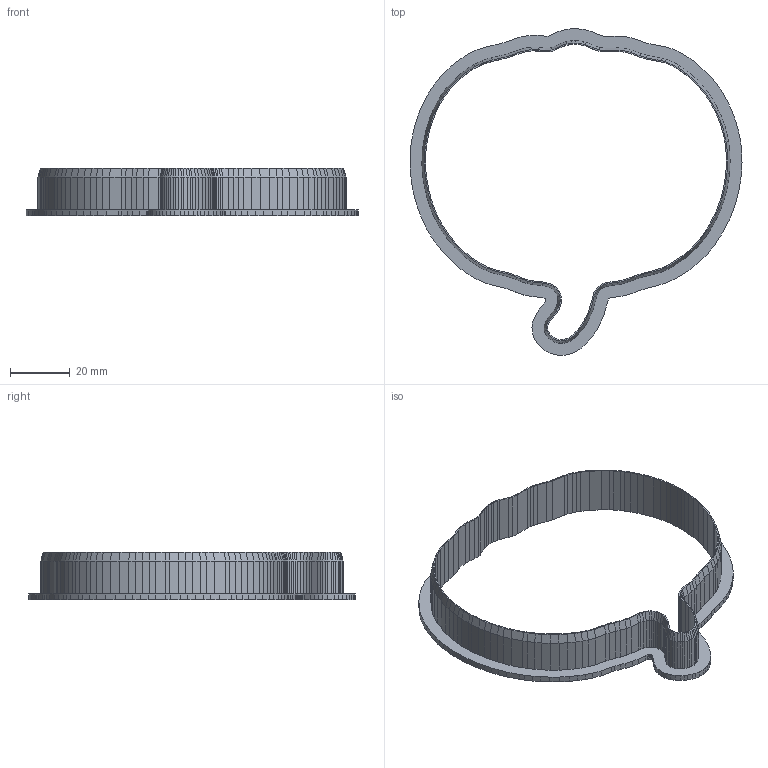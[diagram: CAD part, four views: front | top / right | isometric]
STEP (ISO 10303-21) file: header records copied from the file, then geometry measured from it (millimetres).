
FILE_DESCRIPTION(('Open CASCADE Model'),'2;1');
FILE_NAME('Open CASCADE Shape Model','2026-10-27T22:24:00',('Author'),( 'Open CASCADE'),'Open CASCADE STEP processor 7.9','Open CASCADE 7.9' ,'Unknown');
FILE_SCHEMA(('AUTOMOTIVE_DESIGN { 1 0 10303 214 1 1 1 1 }'));
Length unit declared in the file: millimetre
Products named in the file (1): Open CASCADE STEP translator 7.9 9
Bounding box: 111 x 109.16 x 16 mm (x, y, z)
Volume: 8604.5 mm3; surface area: 13768.9 mm2
Topology: 1 solids, 1 shells, 646 faces, 1767 edges, 1124 vertices
Faces by surface type: plane 484, bspline 162
Entity records: 41684 total; most frequent: CARTESIAN_POINT 8654, DIRECTION 5175, LINE 4205, VECTOR 4205, ORIENTED_EDGE 3534, PCURVE 3534, DEFINITIONAL_REPRESENTATION 3534, EDGE_CURVE 1767
